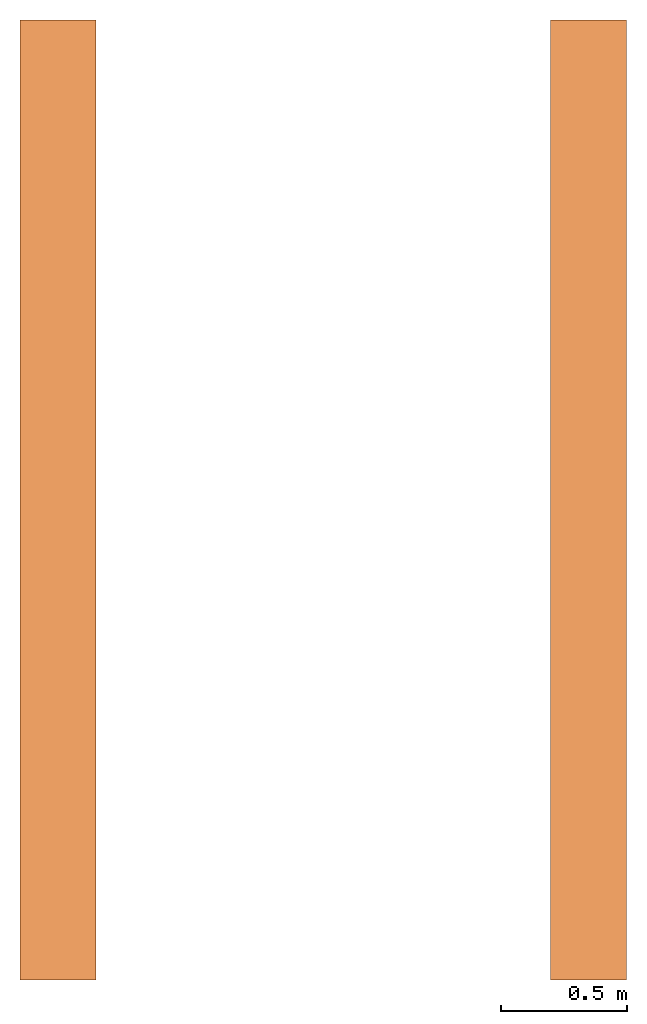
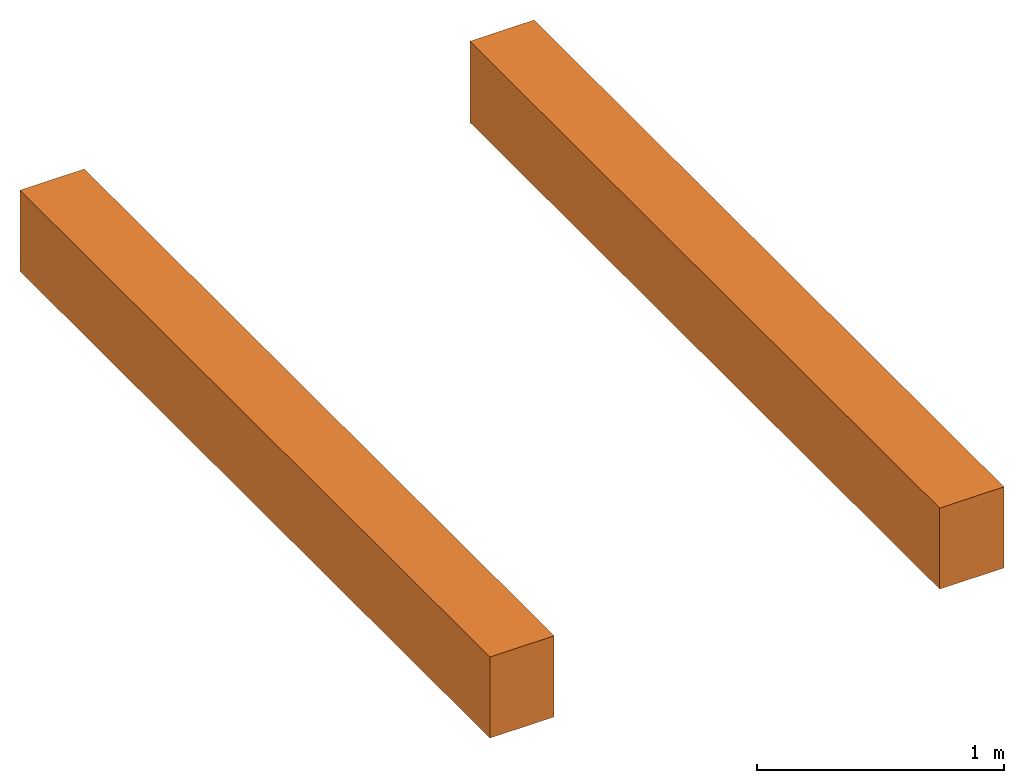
# One storey: 1 proxy.
"""IFC2X3 building model written with IfcOpenShell, lengths in millimetres."""

import ifcopenshell
import ifcopenshell.guid

model = None  # the IFC model being written
_history = None  # IfcOwnerHistory: only IFC2X3 demands one
_inside = {}  # id of a spatial element -> (the spatial element, [elements in it])
_under = {}  # id of a project, library or spatial element -> (it, [spatial elements below it])
_declared = {}  # id of a project -> (the project, [libraries it declares])
_typed = {}  # id of a type object -> (the type object, [elements of that type])
_made_of = {}  # id of a material, layer set ... -> (it, [elements and type objects made of it])


def new_model(schema):
    """Start an empty IFC model of exactly this schema.

    Asked for "IFC4X3", IfcOpenShell would pick the latest addendum, in which some entities
    have other attributes; the version numbers below select the first issue.
    IFC2X3 requires an IfcOwnerHistory on every rooted entity: one is made here for all.
    """
    global model, _history
    if schema == "IFC4X3":
        model = ifcopenshell.file(schema_version=(4, 3, 0, 0))
    else:
        model = ifcopenshell.file(schema=schema)
    _inside.clear()
    _under.clear()
    _declared.clear()
    _typed.clear()
    _made_of.clear()
    _history = None
    if model.schema == "IFC2X3":
        org = make("IfcOrganization", Name="unknown")
        user = make(
            "IfcPersonAndOrganization",
            ThePerson=make("IfcPerson", FamilyName="unknown"),
            TheOrganization=org,
        )
        app = make(
            "IfcApplication",
            ApplicationDeveloper=org,
            Version="unknown",
            ApplicationFullName="unknown",
            ApplicationIdentifier="unknown",
        )
        _history = make(
            "IfcOwnerHistory",
            OwningUser=user,
            OwningApplication=app,
            ChangeAction="ADDED",
            CreationDate=0,
        )
    return model


def make(cls, **values):
    """One entity of the class cls with the attributes given. An attribute that is None is left unset."""
    return model.create_entity(
        cls, **{name: value for name, value in values.items() if value is not None}
    )


def entity(cls, *values):
    """Any entity or typed value of the class cls, its attributes in the order of the schema. None: left unset."""
    e = model.create_entity(cls)
    for i, value in enumerate(values):
        if value is not None:
            e[i] = value
    return e


def rooted(cls, **values):
    """An entity with a GlobalId (a new one), such as an element, a storey or a relation."""
    return make(cls, GlobalId=ifcopenshell.guid.new(), OwnerHistory=_history, **values)


def si_unit(unit_type, name, prefix=None):
    """IfcSIUnit, for example si_unit("LENGTHUNIT", "METRE", prefix="MILLI")."""
    return make("IfcSIUnit", UnitType=unit_type, Prefix=prefix, Name=name)


def converted_unit(unit_type, name, factor, base, dimensions=None, offset=None):
    """IfcConversionBasedUnit, such as the inch: factor (a typed value) times the base unit."""
    return make(
        "IfcConversionBasedUnit"
        if offset is None
        else "IfcConversionBasedUnitWithOffset",
        ConversionOffset=offset,
        Dimensions=None
        if dimensions is None
        else entity("IfcDimensionalExponents", *dimensions),
        UnitType=unit_type,
        Name=name,
        ConversionFactor=make(
            "IfcMeasureWithUnit", ValueComponent=factor, UnitComponent=base
        ),
    )


def assignment(units):
    """IfcUnitAssignment: the units of a project."""
    return None if units is None else make("IfcUnitAssignment", Units=units)


def point(xyz):
    """IfcCartesianPoint."""
    return None if xyz is None else make("IfcCartesianPoint", Coordinates=xyz)


def direction(xyz):
    """IfcDirection."""
    return None if xyz is None else make("IfcDirection", DirectionRatios=xyz)


def frame(location, z_axis=None, x_axis=None):
    """IfcAxis2Placement3D, a coordinate frame: its origin and axes. An axis left out is left unset."""
    return make(
        "IfcAxis2Placement3D",
        Location=point(location),
        Axis=direction(z_axis),
        RefDirection=direction(x_axis),
    )


def frame_2d(location, x_axis=None):
    """IfcAxis2Placement2D, a coordinate frame in the plane: its origin and x axis."""
    return make(
        "IfcAxis2Placement2D", Location=point(location), RefDirection=direction(x_axis)
    )


def origin():
    """The frame at (0, 0, 0) with its axes left unset."""
    return frame((0.0, 0.0, 0.0))


def place(relative_to, where):
    """IfcLocalPlacement: puts the frame where relative to a parent placement (None: the world)."""
    return make(
        "IfcLocalPlacement", PlacementRelTo=relative_to, RelativePlacement=where
    )


def context(
    kind, dimensions, precision=None, world=None, true_north=None, identifier=None
):
    """IfcGeometricRepresentationContext, for example the 3D "Model" context."""
    return make(
        "IfcGeometricRepresentationContext",
        ContextIdentifier=identifier,
        ContextType=kind,
        CoordinateSpaceDimension=dimensions,
        Precision=precision,
        WorldCoordinateSystem=world,
        TrueNorth=true_north,
    )


def subcontext(parent, identifier, kind, view, scale=None):
    """IfcGeometricRepresentationSubContext, for example "Body" below "Model"."""
    return make(
        "IfcGeometricRepresentationSubContext",
        ContextIdentifier=identifier,
        ContextType=kind,
        ParentContext=parent,
        TargetScale=scale,
        TargetView=view,
    )


def project(units=None, contexts=None):
    """IfcProject with its units and contexts."""
    return rooted(
        "IfcProject",
        Name="project",
        RepresentationContexts=contexts,
        UnitsInContext=assignment(units),
    )


def spatial(cls, under=None, at=None, **own):
    """A site, building, storey or space (cls), placed at a placement, below another one or the project."""
    s = rooted(cls, ObjectPlacement=at, **own)
    if under is not None:
        _under.setdefault(under.id(), (under, []))[1].append(s)
    return s


def profile(cls, at=None, kind="AREA", **sizes):
    """A parametric profile (cls). Its sizes go by their IFC names, for example OverallWidth=200.0."""
    return make(cls, ProfileType=kind, Position=at, **sizes)


def rectangle(**sizes):
    """IfcRectangleProfileDef."""
    return profile("IfcRectangleProfileDef", **sizes)


def extrude(swept, where, along, depth):
    """IfcExtrudedAreaSolid: the profile swept, set in the frame where, extruded along a direction by depth."""
    return make(
        "IfcExtrudedAreaSolid",
        SweptArea=swept,
        Position=where,
        ExtrudedDirection=direction(along),
        Depth=depth,
    )


def shape(context_of_items, identifier, shape_type, items):
    """IfcShapeRepresentation: the items that make up one representation, for example the "Body"."""
    return make(
        "IfcShapeRepresentation",
        ContextOfItems=context_of_items,
        RepresentationIdentifier=identifier,
        RepresentationType=shape_type,
        Items=items,
    )


def source(mapping_origin, context_of_items, identifier, shape_type, items):
    """IfcRepresentationMap: a shape defined once, which mapped items show again and again."""
    return make(
        "IfcRepresentationMap",
        MappingOrigin=mapping_origin,
        MappedRepresentation=shape(context_of_items, identifier, shape_type, items),
    )


def transform(
    local_origin,
    x_axis=None,
    y_axis=None,
    z_axis=None,
    scale=None,
    scale2=None,
    scale3=None,
    uniform=True,
):
    """IfcCartesianTransformationOperator3D, or its non-uniform kind. x_axis, y_axis, z_axis: its Axis1, 2, 3."""
    if uniform:
        return make(
            "IfcCartesianTransformationOperator3D",
            Axis1=direction(x_axis),
            Axis2=direction(y_axis),
            LocalOrigin=point(local_origin),
            Scale=scale,
            Axis3=direction(z_axis),
        )
    return make(
        "IfcCartesianTransformationOperator3DnonUniform",
        Axis1=direction(x_axis),
        Axis2=direction(y_axis),
        LocalOrigin=point(local_origin),
        Scale=scale,
        Axis3=direction(z_axis),
        Scale2=scale2,
        Scale3=scale3,
    )


def mapped(mapping_source, mapping_target):
    """IfcMappedItem: shows the shape of a source again, moved by a transform."""
    return make(
        "IfcMappedItem", MappingSource=mapping_source, MappingTarget=mapping_target
    )


def material(Name=None, Category=None):
    """IfcMaterial."""
    return make("IfcMaterial", Name=Name, Category=Category)


def made_of(thing, what):
    """Note that an element or type object is made of a material, layer set ...; save() writes the relation."""
    if what is not None:
        _made_of.setdefault(what.id(), (what, []))[1].append(thing)
    return thing


def type_object(cls, material=None, **own):
    """A type object (cls), such as IfcWallType, which elements share."""
    return made_of(rooted(cls, **own), material)


def type_shapes(of_type, sources):
    """Give a type object the sources (RepresentationMaps) that its elements show as mapped items."""
    of_type.RepresentationMaps = sources


def element(
    cls,
    number,
    at=None,
    inside=None,
    cuts=None,
    type_object=None,
    material=None,
    context=None,
    identifier="Body",
    shape_type=None,
    held_by="IfcProductDefinitionShape",
    body=None,
    shapes=None,
    **own,
):
    """One element of the class cls, such as IfcWall. Its Tag is "e" and its number.

    at: its placement. inside: the storey or other place that contains it. cuts: it is an
    opening in that element (IfcRelVoidsElement). A single representation is given by context,
    identifier, shape_type and body (its items); several are given by shapes. held_by: the class
    of the entity that holds the representations. save() writes the other relations.
    """
    e = rooted(cls, Tag="e%d" % number, ObjectPlacement=at, **own)
    if body is not None:
        shapes = [shape(context, identifier, shape_type, body)]
    if shapes is not None:
        e.Representation = make(held_by, Representations=shapes)
    if inside is not None:
        _inside.setdefault(inside.id(), (inside, []))[1].append(e)
    if cuts is not None:
        rooted(
            "IfcRelVoidsElement", RelatingBuildingElement=cuts, RelatedOpeningElement=e
        )
    if type_object is not None:
        _typed.setdefault(type_object.id(), (type_object, []))[1].append(e)
    return made_of(e, material)


def aggregate(whole, parts):
    """IfcRelAggregates: a whole, such as a stair, and the parts it consists of."""
    return rooted("IfcRelAggregates", RelatingObject=whole, RelatedObjects=parts)


def save(model, path):
    """Write the relations noted so far, then the file.

    IfcRelAggregates (storeys below a building ...), IfcRelContainedInSpatialStructure (elements
    in a storey), IfcRelDefinesByType, IfcRelAssociatesMaterial and IfcRelDeclares: one each for
    every whole, place, type object, material and project.
    """
    for whole, parts in _under.values():
        aggregate(whole, parts)
    for where, things in _inside.values():
        rooted(
            "IfcRelContainedInSpatialStructure",
            RelatedElements=things,
            RelatingStructure=where,
        )
    for kind, things in _typed.values():
        rooted("IfcRelDefinesByType", RelatedObjects=things, RelatingType=kind)
    for what, things in _made_of.values():
        rooted("IfcRelAssociatesMaterial", RelatedObjects=things, RelatingMaterial=what)
    for by, libraries in _declared.values():
        rooted("IfcRelDeclares", RelatingContext=by, RelatedDefinitions=libraries)
    model.write(path)


model = new_model("IFC2X3")

# Units and contexts
model_context = context("Model", 3, precision=0.01, world=origin(), true_north=direction((6.123031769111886e-17, 1.0)))
body_context = subcontext(model_context, "Body", "Model", "MODEL_VIEW")
ifc_project = project(units=[si_unit("LENGTHUNIT", "METRE", prefix="MILLI"), converted_unit("PLANEANGLEUNIT", "DEGREE", entity("IfcPlaneAngleMeasure", 0.017453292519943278), si_unit("PLANEANGLEUNIT", "RADIAN"), dimensions=[0, 0, 0, 0, 0, 0, 0]), si_unit("AREAUNIT", "SQUARE_METRE")], contexts=[model_context])

# Site, building, storey
site_placement = place(None, frame((7776.576483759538, 118.3519876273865, 0.0)))
site = spatial("IfcSite", under=ifc_project, at=site_placement, Name="Default", CompositionType="ELEMENT")
building_placement = place(site_placement, origin())
building = spatial("IfcBuilding", under=site, at=building_placement, Name="Bygning (endres i Project Information)", CompositionType="ELEMENT")
storey_placement = place(building_placement, frame((0.0, 0.0, 16800.0)))
storey = spatial("IfcBuildingStorey", under=building, at=storey_placement, Name="Plan arbeidsnivå", CompositionType="ELEMENT", Elevation=16800.0)

# Proxy
ifc_material = material(Name="<Unnamed>")
building_element_proxy_type = type_object("IfcBuildingElementProxyType", Name="Overløpsrenne:Overløpsrenne", PredefinedType="NOTDEFINED", material=ifc_material)
shared_shape = source(origin(), body_context, "Body", "SweptSolid", [
    extrude(rectangle(XDim=299.99999999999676, YDim=3799.999999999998, at=frame_2d((0.0, -2.1600499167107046e-12), x_axis=(1.0, 0.0))), frame((28974.001374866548, 21977.856873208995, 17900.0), z_axis=(0.0, 0.0, 1.0), x_axis=(-1.0, 0.0, 0.0)), (0.0, 0.0, 1.0), 400.0),
    extrude(rectangle(XDim=299.99999999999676, YDim=3799.999999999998, at=frame_2d((4.334310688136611e-12, 2.1600499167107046e-12), x_axis=(1.0, 0.0))), frame((31074.00137486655, 21977.856873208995, 17900.0), z_axis=(0.0, 0.0, 1.0), x_axis=(-1.0, 0.0, 0.0)), (0.0, 0.0, 1.0), 400.0),
])
type_shapes(building_element_proxy_type, [shared_shape])
proxy_placement = place(storey_placement, frame((0.0, 0.0, -16800.0)))
element("IfcBuildingElementProxy", 1, at=proxy_placement, inside=storey, type_object=building_element_proxy_type, material=ifc_material, Name="Overløpsrenne:Overløpsrenne", ObjectType="Overløpsrenne:Overløpsrenne", context=body_context, shape_type="MappedRepresentation", body=[
    mapped(shared_shape, transform((0.0, 0.0, 0.0), scale=1.0)),
])

save(model, "model.ifc")
